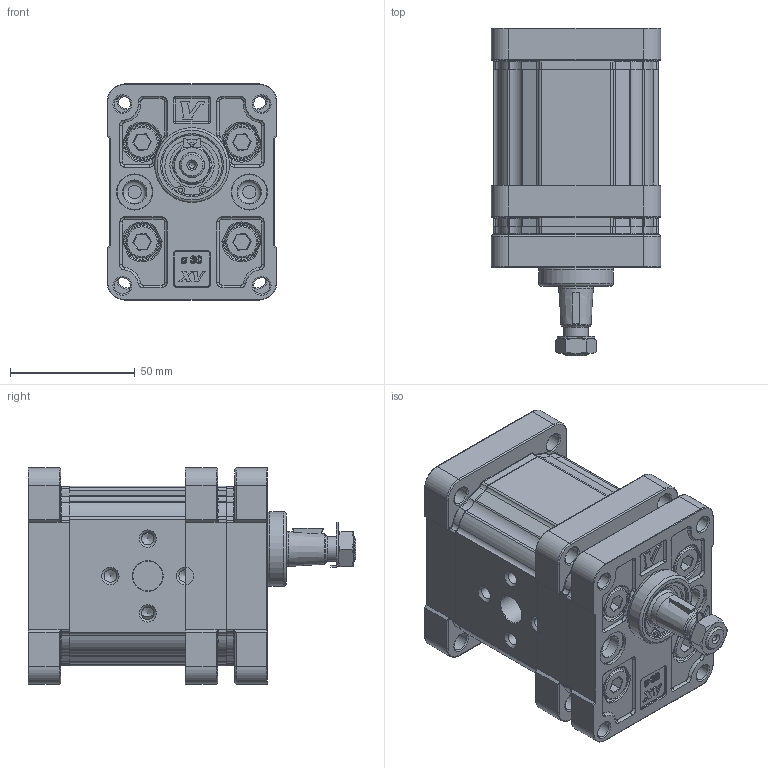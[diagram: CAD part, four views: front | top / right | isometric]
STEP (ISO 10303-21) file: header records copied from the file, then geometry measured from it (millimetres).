
FILE_DESCRIPTION( ( 'Unknown' ), '1' );
FILE_NAME( 'P:/montaggio_easy/output/STP/X1T3211GIIA.stp', 'Unknown', ( 'Unknown' ), ( 'Unknown' ), 'PSStep 14.0', 'Unknown', ' ' );
FILE_SCHEMA( ( 'AUTOMOTIVE_DESIGN { 1 0 10303 214 1 1 1 1 }' ) );
Length unit declared in the file: millimetre
Products named in the file (5): Assem1; X1T11; 1G; X1IIH63; XT113-A
Bounding box: 68 x 131.5 x 86.7 mm (x, y, z)
Surface area: 165201.5 mm2
Topology: 8 solids, 18 shells, 2598 faces, 6742 edges, 4236 vertices
Faces by surface type: cylinder 886, plane 806, torus 438, cone 282, extrusion 146, bspline 24, sphere 16
Full cylindrical faces by diameter (mm): 1.678 x4, 2.5 x4, 5 x16, 6.5 x8, 7.15 x8, 8 x16, 9 x4, 9.3 x8, 9.9 x2, 10 x4, 10.25 x2, 10.5 x4, 11.965 x2, 12 x4, 13 x8, 13.955 x2, 14 x4, 14.5 x8, 14.923 x2, 17.115 x2, 17.833 x2, 19 x2, 21.4 x2, 22 x2, 24 x4, 24.2 x2, 25.4 x2, 25.5 x2, 30 x2
Entity records: 51648 total; most frequent: CARTESIAN_POINT 10486, DIRECTION 6406, ORIENTED_EDGE 6262, EDGE_CURVE 3131, AXIS2_PLACEMENT_3D 2519, VERTEX_POINT 2056, EDGE_LOOP 1571, FACE_OUTER_BOUND 1406
